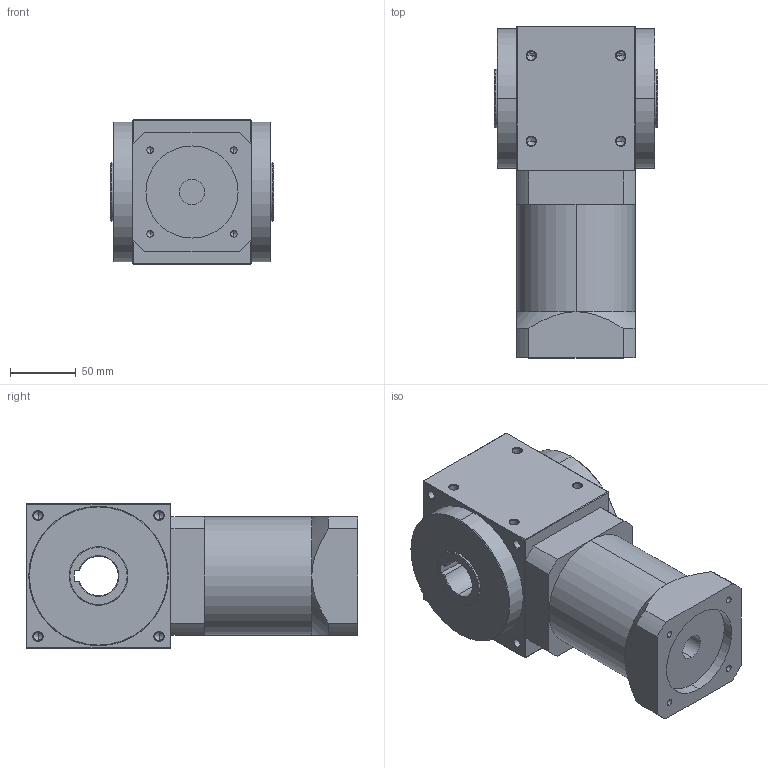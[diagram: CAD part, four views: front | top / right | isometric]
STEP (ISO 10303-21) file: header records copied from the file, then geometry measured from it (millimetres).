
FILE_DESCRIPTION (( 'STEP AP214' ), '1' );
FILE_NAME ('RXW110AS-L2-CR-19-70-90-m6.STEP', '2020-03-09T01:34:54', ( 'User' ), ( 'Far123' ), 'SwSTEP 2.0', 'SolidWorks 2015', '' );
FILE_SCHEMA (( 'AUTOMOTIVE_DESIGN' ));
Length unit declared in the file: millimetre
Products named in the file (1): RXW110AS-L2-CR-19-70-90-m6
Bounding box: 124 x 252 x 110 mm (x, y, z)
Volume: 2202107.7 mm3; surface area: 143828.8 mm2
Topology: 1 solids, 1 shells, 230 faces, 550 edges, 296 vertices
Faces by surface type: cone 106, cylinder 73, plane 51
Entity records: 6956 total; most frequent: CARTESIAN_POINT 1225, DIRECTION 1168, ORIENTED_EDGE 1004, EDGE_CURVE 502, AXIS2_PLACEMENT_3D 455, VERTEX_POINT 296, EDGE_LOOP 262, LINE 258
